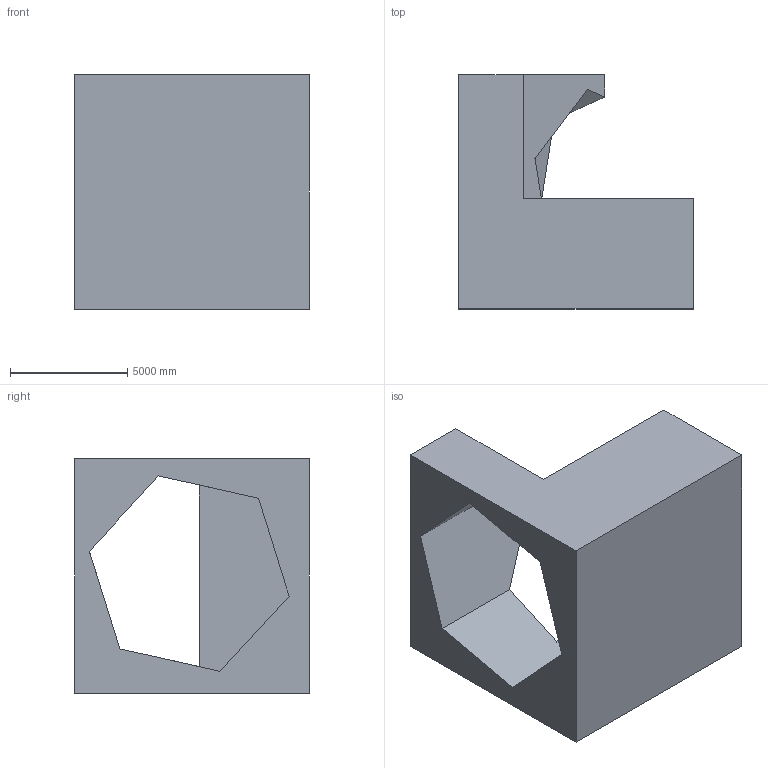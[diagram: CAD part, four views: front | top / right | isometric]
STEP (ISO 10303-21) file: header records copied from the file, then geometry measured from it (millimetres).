
FILE_DESCRIPTION (( 'STEP AP203' ), '1' );
FILE_NAME ('11.STEP', '2022-08-31T11:09:16', ( 'user' ), ( '' ), 'SwSTEP 2.0', 'SolidWorks 2021', '' );
FILE_SCHEMA (( 'CONFIG_CONTROL_DESIGN' ));
Length unit declared in the file: centimetre
Products named in the file (1): 11
Bounding box: 10000 x 10000 x 10000 mm (x, y, z)
Volume: 426733354869.9 mm3; surface area: 600849338.8 mm2
Topology: 1 solids, 1 shells, 16 faces, 45 edges, 30 vertices
Faces by surface type: plane 16
Entity records: 590 total; most frequent: CARTESIAN_POINT 92, ORIENTED_EDGE 90, DIRECTION 79, EDGE_CURVE 45, VECTOR 45, LINE 45, VERTEX_POINT 30, AXIS2_PLACEMENT_3D 17
